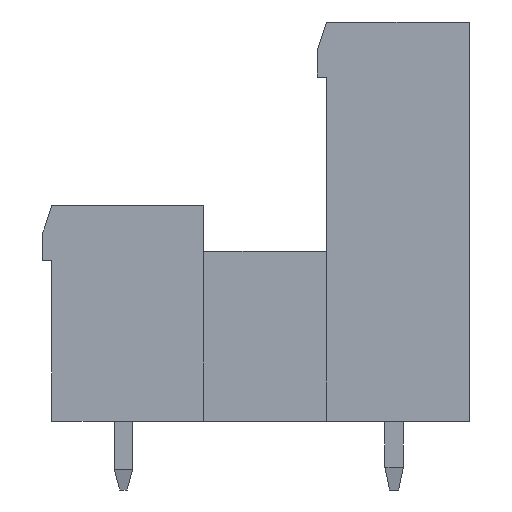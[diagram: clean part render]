
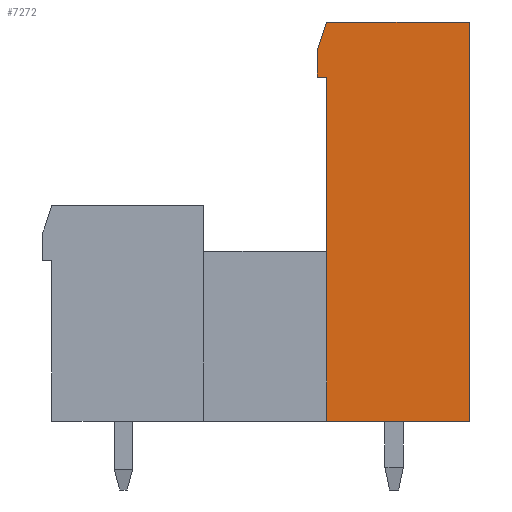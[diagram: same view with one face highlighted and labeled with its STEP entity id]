
A CAD part, left-side view. The second image highlights one B-rep face of the part: STEP entity #7272.
In plain terms, the highlighted planar face has unit normal (-1, 0, 0).
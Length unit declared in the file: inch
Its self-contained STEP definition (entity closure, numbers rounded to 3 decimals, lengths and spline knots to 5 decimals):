
#1=DIRECTION('',(0.,0.,1.));
#2=VECTOR('',#1,0.37);
#3=CARTESIAN_POINT('',(-0.5315,0.311,0.));
#4=LINE('',#3,#2);
#5=DIRECTION('',(0.,0.,1.));
#6=VECTOR('',#5,0.38);
#7=CARTESIAN_POINT('',(-0.5315,0.311,0.37));
#8=LINE('',#7,#6);
#9=DIRECTION('',(0.,1.,0.));
#10=VECTOR('',#9,0.02);
#11=CARTESIAN_POINT('',(-0.5315,0.311,0.75));
#12=LINE('',#11,#10);
#13=DIRECTION('',(0.,0.,1.));
#14=VECTOR('',#13,0.06);
#15=CARTESIAN_POINT('',(-0.5315,0.331,0.75));
#16=LINE('',#15,#14);
#17=DIRECTION('',(0.,-0.316,0.949));
#18=VECTOR('',#17,0.06325);
#19=CARTESIAN_POINT('',(-0.5315,0.331,0.81));
#20=LINE('',#19,#18);
#21=DIRECTION('',(0.,-1.,0.));
#22=VECTOR('',#21,0.311);
#23=CARTESIAN_POINT('',(-0.5315,0.311,0.87));
#24=LINE('',#23,#22);
#25=DIRECTION('',(0.,0.,-1.));
#26=VECTOR('',#25,0.87);
#27=CARTESIAN_POINT('',(-0.5315,0.,0.87));
#28=LINE('',#27,#26);
#29=DIRECTION('',(0.,1.,0.));
#30=VECTOR('',#29,0.311);
#31=CARTESIAN_POINT('',(-0.5315,0.,0.));
#32=LINE('',#31,#30);
#5575=CARTESIAN_POINT('',(-0.5315,0.,0.87));
#5576=CARTESIAN_POINT('',(-0.5315,0.,0.));
#5577=VERTEX_POINT('',#5575);
#5578=VERTEX_POINT('',#5576);
#5579=CARTESIAN_POINT('',(-0.5315,0.311,0.75));
#5580=CARTESIAN_POINT('',(-0.5315,0.331,0.75));
#5581=VERTEX_POINT('',#5579);
#5582=VERTEX_POINT('',#5580);
#5583=CARTESIAN_POINT('',(-0.5315,0.331,0.81));
#5584=VERTEX_POINT('',#5583);
#5585=CARTESIAN_POINT('',(-0.5315,0.311,0.87));
#5586=VERTEX_POINT('',#5585);
#5786=CARTESIAN_POINT('',(-0.5315,0.311,0.));
#5787=CARTESIAN_POINT('',(-0.5315,0.311,0.37));
#5788=VERTEX_POINT('',#5786);
#5789=VERTEX_POINT('',#5787);
#7249=CARTESIAN_POINT('',(-0.5315,0.,0.));
#7250=DIRECTION('',(1.,0.,0.));
#7251=DIRECTION('',(0.,0.,-1.));
#7252=AXIS2_PLACEMENT_3D('',#7249,#7250,#7251);
#7253=PLANE('',#7252);
#7255=ORIENTED_EDGE('',*,*,#7254,.T.);
#7257=ORIENTED_EDGE('',*,*,#7256,.T.);
#7259=ORIENTED_EDGE('',*,*,#7258,.T.);
#7261=ORIENTED_EDGE('',*,*,#7260,.T.);
#7263=ORIENTED_EDGE('',*,*,#7262,.T.);
#7265=ORIENTED_EDGE('',*,*,#7264,.T.);
#7267=ORIENTED_EDGE('',*,*,#7266,.T.);
#7269=ORIENTED_EDGE('',*,*,#7268,.T.);
#7270=EDGE_LOOP('',(#7255,#7257,#7259,#7261,#7263,#7265,#7267,#7269));
#7271=FACE_OUTER_BOUND('',#7270,.F.);
#7272=ADVANCED_FACE('',(#7271),#7253,.F.);
#7254=EDGE_CURVE('',#5788,#5789,#4,.T.);
#7256=EDGE_CURVE('',#5789,#5581,#8,.T.);
#7258=EDGE_CURVE('',#5581,#5582,#12,.T.);
#7260=EDGE_CURVE('',#5582,#5584,#16,.T.);
#7262=EDGE_CURVE('',#5584,#5586,#20,.T.);
#7264=EDGE_CURVE('',#5586,#5577,#24,.T.);
#7266=EDGE_CURVE('',#5577,#5578,#28,.T.);
#7268=EDGE_CURVE('',#5578,#5788,#32,.T.);
